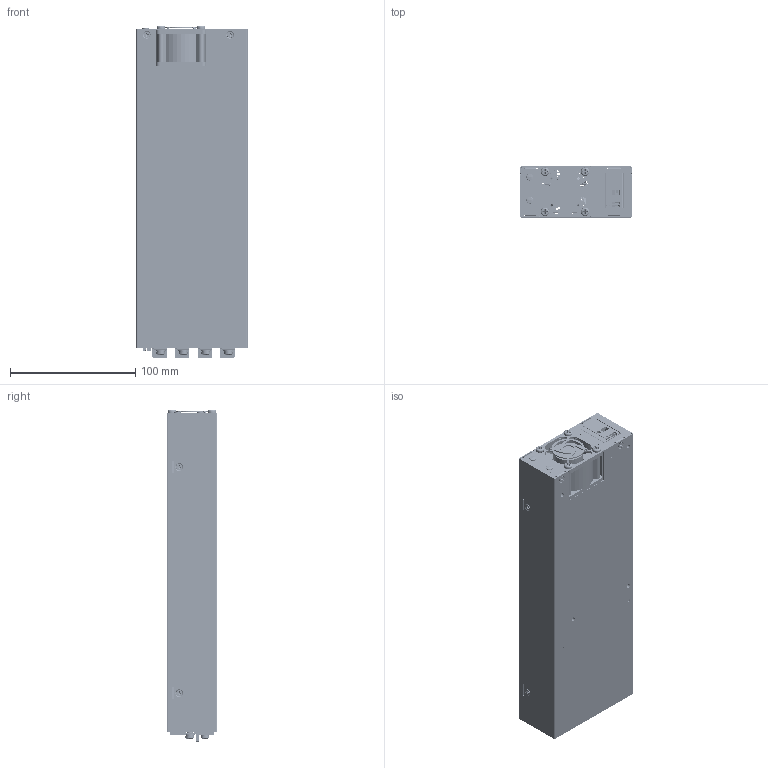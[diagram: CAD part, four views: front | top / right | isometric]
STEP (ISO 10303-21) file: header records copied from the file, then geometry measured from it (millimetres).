
FILE_DESCRIPTION((''),'2;1');
FILE_NAME('MEG-A1K2F4E_AA','2019-09-16T',('Kebang.Hou'),(''),'CREO PARAMETRIC BY PTC INC, 2015200','CREO PARAMETRIC BY PTC INC, 2015200','');
FILE_SCHEMA(('CONFIG_CONTROL_DESIGN'));
Products named in the file (91): CHASSIS_1-5866_1_1; STANDOFF_M3X4_1_1_1; STANDOFF_HOOK_1_1_1; BLOCK_1_1_1; RIVET_1_1_1; STANDOFF_HOOK__1_1_1; CHASSIS_1-5880_1_1; INSULATOR1_1_1_1; BOARD_1_1_1; DEFAULT-8993_1_1_1; DEFAULT-12407_1_1_1; MCN-2_54X2_54_10P_1_1_1; CN304_1_1_1; CN303_1_1_1; CN302_1_1_1; CN301_1_1_1; DEFAULT-2697_1_1_1; DEFAULT-4167_1_1_1; MCN-2_54X2_54_4P_1_1_1; CN7_1_1_1; CN6_1_1_1; CN5_1_1_1; CN4_1_1_1; PCB_1_1_1; MEG-A1K2F4T_AAR0C1_1_1_1; CONTROL_PWB_1-66196_1_1; A2008WR0-4P_1_1_1; FPIN_1_1_1; 878331051_1_1_1; A2003WR0-1BGX14PA-6T_1_1_1; LED_LTL42TG6NH195_1_1_1; CONTROL_PWB_1-66205_1_1; STANDOFF_1_1_1_1; CONTROL_PFC_1_1_1; COVER_1_1_1; INSULATOR2_1_1_1; 3105465600_M3X5_1_1_1; MEG-A1K2F4C_AA_1_1_1; PANEL_1_1-115243_1_1; PANEL_1_1-115255_1_1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
Assembly tree (135 placements, depth 11):
  MEG-A1K2F4E_AA
    MEG-A1K2F4E_AA_1
      MEG-A1K2F4E_AA_1_1
        0_MEG-A1K2F4-AA_1_1_1
          MEG-A1K2F4C_AA_1_1_1
            CHASSIS_1-5880_1_1
              CHASSIS_1-5866_1_1
              STANDOFF_M3X4_1_1_1  x3
              STANDOFF_HOOK_1_1_1
              BLOCK_1_1_1
              RIVET_1_1_1  x2
              STANDOFF_HOOK__1_1_1
            INSULATOR1_1_1_1
            CONTROL_PFC_1_1_1
              MEG-A1K2F4T_AAR0C1_1_1_1
                PCB_1_1_1
                  BOARD_1_1_1
                  CN304_1_1_1
                  CN303_1_1_1
                  CN302_1_1_1
                  CN301_1_1_1
                  CN7_1_1_1
                  CN6_1_1_1
                  CN5_1_1_1
                  CN4_1_1_1
              CONTROL_PWB_1-66205_1_1
                CONTROL_PWB_1-66196_1_1
                A2008WR0-4P_1_1_1
                FPIN_1_1_1  x2
                878331051_1_1_1  x2
                A2003WR0-1BGX14PA-6T_1_1_1
                LED_LTL42TG6NH195_1_1_1  x2
              STANDOFF_1_1_1_1  x2
            COVER_1_1_1
            INSULATOR2_1_1_1
            3105465600_M3X5_1_1_1  x3
          MEG-A2K1PCS1_AA_1_1_1
            PANEL_1_1-115255_1_1
              PANEL_1_1-115243_1_1
            FAN_40X40_1_1_1
            3106164500_1_1_1  x4
            TDC-2_1-133092_1_1
              DINKLE_DT-123RA-03P_1_1_1
              TDC-2_1-134408_1_1
              STANDOFF_1_1_1  x2
              DINKLE_DT-123RA-03P3_1_1_1
              BRACKET_1_1_1  x2
              3105465600_M3X5_1_1_1  x2
              TR031551000AG_1_1_1
            HHP-04_1_1_1  x2
          MEG-A300M24S_AA_1_1_1  x4
            MODULE_1_1_1
            613004243121_1_1_1
              613004243121_1_1_1_1
              613004243121_1_2_1_1
              613004243121_1_3_1_1
              613004243121_1_4_1_1
              613004243121_1_5_1_1
            613010243121_1_1_1
              613010243121_1_1_1_1
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Bounding box: 89.05 x 40.65 x 264.75 mm (x, y, z)
Volume: 197757.1 mm3; surface area: 434715.3 mm2
Topology: 223 solids, 331 shells, 15430 faces, 40929 edges, 26547 vertices
Faces by surface type: plane 10449, cylinder 3926, cone 450, torus 373, extrusion 110, bspline 98, sphere 24
Entity records: 269124 total; most frequent: CARTESIAN_POINT 52021, DIRECTION 38266, ORIENTED_EDGE 38208, EDGE_CURVE 19142, VECTOR 13070, LINE 12960, AXIS2_PLACEMENT_3D 12598, VERTEX_POINT 12455
